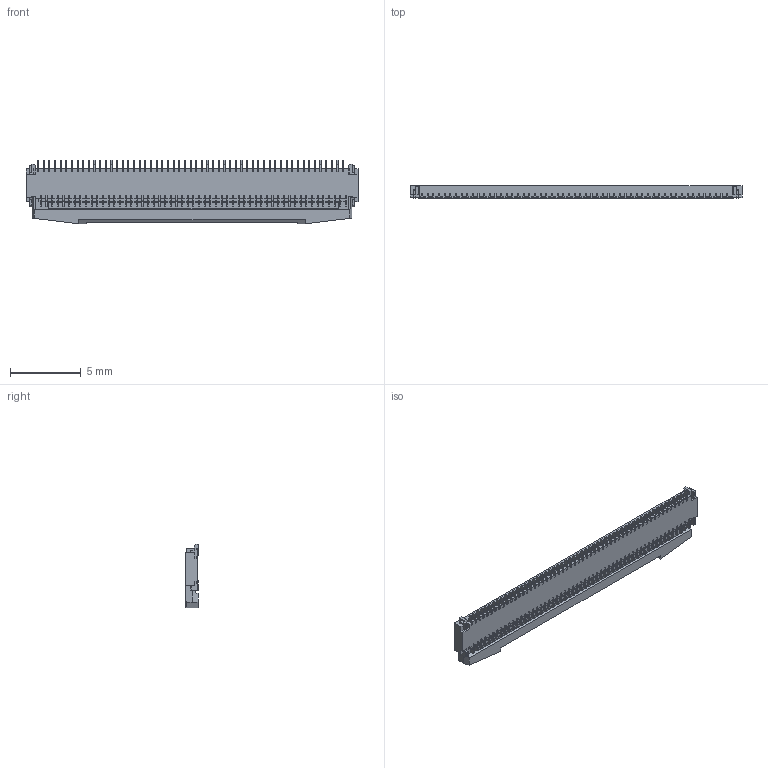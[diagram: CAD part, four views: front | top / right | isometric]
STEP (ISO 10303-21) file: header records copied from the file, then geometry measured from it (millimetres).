
FILE_DESCRIPTION (( 'STEP AP203' ), '1' );
FILE_NAME ('20617-110E-01C ASS''Y ACT CLOSE STEP R5 ALL.STEP', '2017-01-19T09:28:47', ( '' ), ( '' ), 'SwSTEP 2.0', 'SolidWorks 2014', '' );
FILE_SCHEMA (( 'CONFIG_CONTROL_DESIGN' ));
Length unit declared in the file: millimetre
Products named in the file (1): 20617-110E-01C ASS''Y ACT CLOSE STEP R5 ALL
Bounding box: 23.5 x 0.9 x 4.5 mm (x, y, z)
Volume: 72.6 mm3; surface area: 269.5 mm2
Topology: 1 solids, 1 shells, 2350 faces, 7037 edges, 4689 vertices
Faces by surface type: plane 1716, cylinder 630, cone 4
Entity records: 80323 total; most frequent: CARTESIAN_POINT 21546, ORIENTED_EDGE 14074, DIRECTION 9414, EDGE_CURVE 7037, VERTEX_POINT 4689, VECTOR 4684, LINE 4684, AXIS2_PLACEMENT_3D 2365
